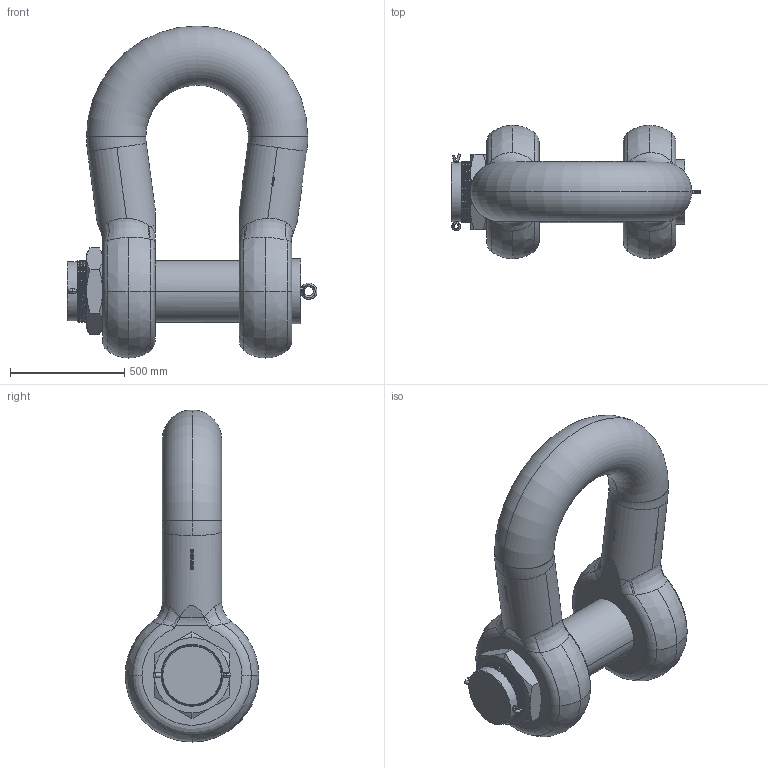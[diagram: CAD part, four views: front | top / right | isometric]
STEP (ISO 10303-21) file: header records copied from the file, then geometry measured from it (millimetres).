
FILE_DESCRIPTION(('STEP AP214'),'1');
FILE_NAME('hdgphm1250.stp','2017-06-30T09:25:22',('TraceParts'),('TraceParts S.A.'),'Spatial InterOp 3D',' ',' ');
FILE_SCHEMA(('automotive_design'));
Length unit declared in the file: millimetre
Products named in the file (5): HDGPHM1250|HDGPHM1250_1#HDGPHM1250_1;MANIFOLD_SOLID_BREP #22145; HDGPHM1250|HDGPHM1250_1#HDGPHM1250_2;MANIFOLD_SOLID_BREP #43500; hdgphm1250_3; hdgphm1250_4; hdgphm1250_5
Bounding box: 1096 x 585 x 1455.49 mm (x, y, z)
Volume: 247106893.7 mm3; surface area: 4643696.3 mm2
Topology: 5 solids, 5 shells, 1327 faces, 6105 edges, 4839 vertices
Faces by surface type: bspline 488, plane 424, cylinder 353, torus 36, cone 26
Entity records: 117839 total; most frequent: CARTESIAN_POINT 67364, ORIENTED_EDGE 12206, EDGE_CURVE 6103, VERTEX_POINT 4839, B_SPLINE_CURVE_WITH_KNOTS 4763, DIRECTION 3082, EDGE_LOOP 1390, STYLED_ITEM 1332
